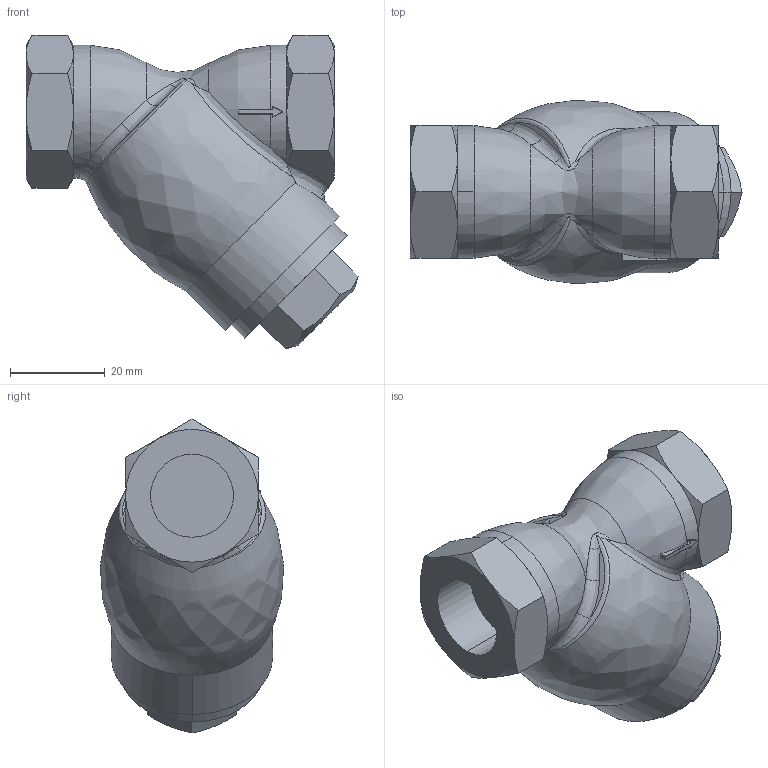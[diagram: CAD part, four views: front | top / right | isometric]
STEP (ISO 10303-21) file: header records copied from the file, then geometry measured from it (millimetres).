
FILE_DESCRIPTION( (''), '2;1');
FILE_NAME ('PC1027.11664.SY-5 10A_10230.stp','2025-06-30T14:06:17',(''),(''),'spGate 19.8.4 (****-****-****-****)','','');
FILE_SCHEMA (('AUTOMOTIVE_DESIGN'));
Length unit declared in the file: millimetre
Products named in the file (3): Assembly; キャップ; SY-5 10A 本体
Assembly tree (2 placements, depth 2):
  Assembly
    キャップ
    SY-5 10A 本体
Bounding box: 70 x 38.68 x 66.17 mm (x, y, z)
Volume: 72068.8 mm3; surface area: 13319.2 mm2
Topology: 2 solids, 2 shells, 115 faces, 287 edges, 173 vertices
Faces by surface type: bspline 49, plane 36, cylinder 25, sphere 5
Entity records: 7222 total; most frequent: CARTESIAN_POINT 2669, ORIENTED_EDGE 562, COLOUR_RGB 398, PRESENTATION_STYLE_ASSIGNMENT 398, STYLED_ITEM 398, DIRECTION 371, EDGE_CURVE 281, DRAUGHTING_PRE_DEFINED_CURVE_FONT 281
